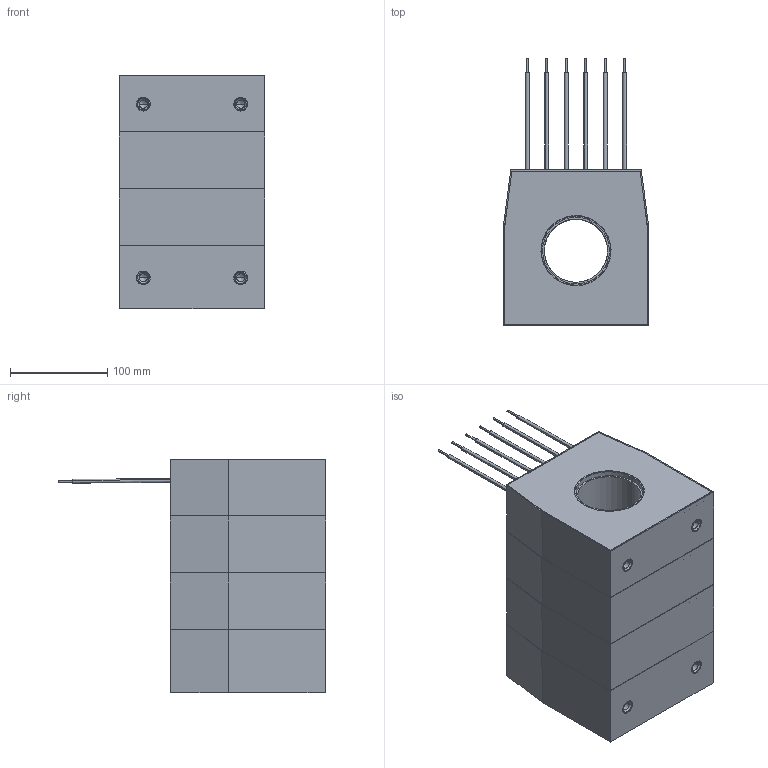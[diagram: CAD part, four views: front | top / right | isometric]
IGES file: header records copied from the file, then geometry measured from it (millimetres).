
Start section: IGES file generated from Kompas f.0 for Windows drawing by the IGES translator from Ascon Ltd., translator version IGESOUT-5.1.
Global section: file name: C:\Ðàáîòà\Èçâåùåíèÿ 5\ÒØÏ-ÍÒÇ-0.66-61...,71...,81... (ñáîðíûé)\Âåðñèÿ îò 21.05.24\3D ìîäåëü\ÒØÏ-ÍÒÇ-0,66-84Ñ\ÒØÏ-ÍÒÇ-0,66-84Ñ (65 ìì, 4-é ãàáàðèò).igs; native system: Kompas( 32 bit ) for Windows; preprocessor: 1.0; author: 123; organization: Microsoft; date: -17750727:094304; units: millimetre
Bounding box: 150 x 274.82 x 240.5 mm (x, y, z)
Volume: 803750.2 mm3; surface area: 538248.7 mm2
Topology: 19 solids, 19 shells, 396 faces, 929 edges, 593 vertices
Faces by surface type: revolution 202, bspline 194
